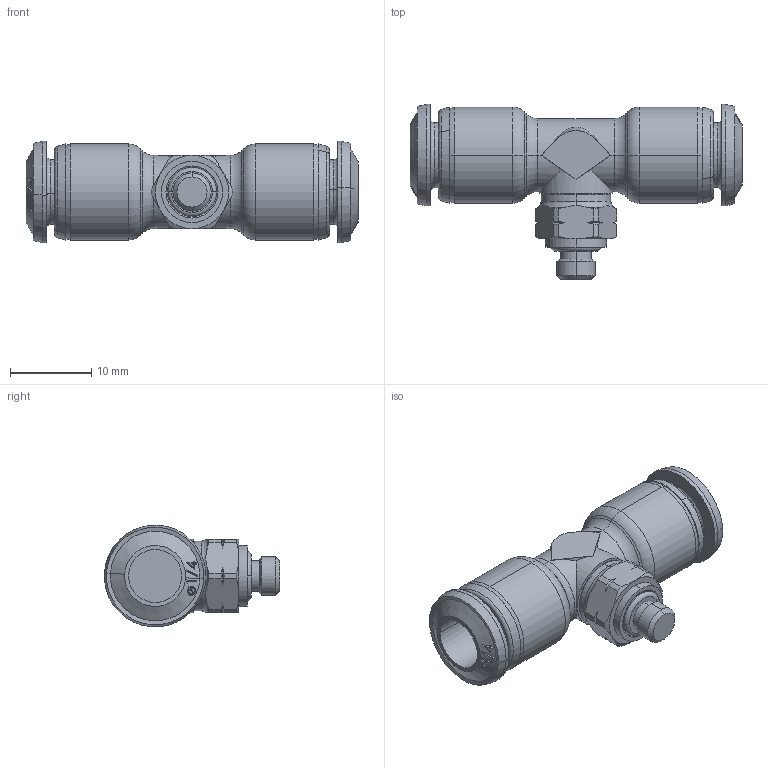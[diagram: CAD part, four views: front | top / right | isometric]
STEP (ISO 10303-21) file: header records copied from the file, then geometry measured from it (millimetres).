
FILE_DESCRIPTION (( 'STEP AP214' ), '1' );
FILE_NAME ('8521600002A.STEP', '2020-05-19T13:59:34', ( 'admin' ), ( '' ), 'SwSTEP 2.0', 'SolidWorks 2016', '' );
FILE_SCHEMA (( 'AUTOMOTIVE_DESIGN' ));
Length unit declared in the file: millimetre
Products named in the file (1): 8521600002A
Bounding box: 40.8 x 21.54 x 12.48 mm (x, y, z)
Volume: 3155.8 mm3; surface area: 2820.2 mm2
Topology: 1 solids, 1 shells, 254 faces, 608 edges, 382 vertices
Faces by surface type: bspline 86, cone 72, cylinder 41, plane 31, torus 24
Entity records: 10622 total; most frequent: CARTESIAN_POINT 5309, ORIENTED_EDGE 1216, DIRECTION 878, EDGE_CURVE 608, VERTEX_POINT 382, AXIS2_PLACEMENT_3D 347, EDGE_LOOP 280, ADVANCED_FACE 254
